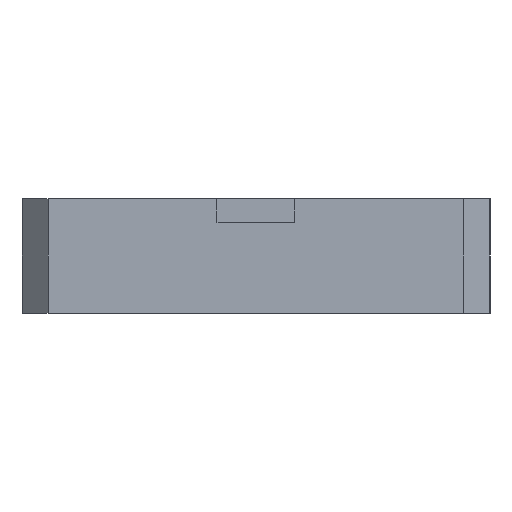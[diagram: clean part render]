
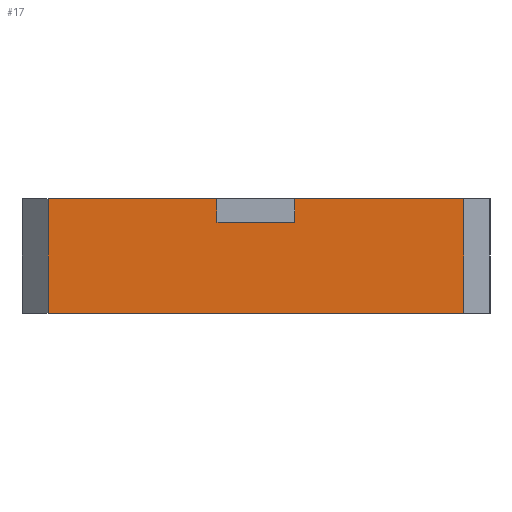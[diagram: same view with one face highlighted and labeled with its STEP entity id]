
A CAD part, left-side view. The second image highlights one B-rep face of the part: STEP entity #17.
In plain terms, the highlighted planar face has unit normal (-1, 0, 0).
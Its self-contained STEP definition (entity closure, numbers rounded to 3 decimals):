
#17 = ADVANCED_FACE('',(#18),#32,.F.);
#18 = FACE_BOUND('',#19,.F.);
#19 = EDGE_LOOP('',(#20,#55,#83,#111,#139,#162,#188,#214));
#20 = ORIENTED_EDGE('',*,*,#21,.F.);
#21 = EDGE_CURVE('',#22,#24,#26,.T.);
#22 = VERTEX_POINT('',#23);
#23 = CARTESIAN_POINT('',(-24.975,-8.,4.4));
#24 = VERTEX_POINT('',#25);
#25 = CARTESIAN_POINT('',(-24.975,-1.5,4.4));
#26 = SURFACE_CURVE('',#27,(#31,#43),.PCURVE_S1.);
#27 = LINE('',#28,#29);
#28 = CARTESIAN_POINT('',(-24.975,-9.,4.4));
#29 = VECTOR('',#30,1.);
#30 = DIRECTION('',(-0.,1.,0.));
#31 = PCURVE('',#32,#37);
#32 = PLANE('',#33);
#33 = AXIS2_PLACEMENT_3D('',#34,#35,#36);
#34 = CARTESIAN_POINT('',(-24.975,-9.,0.));
#35 = DIRECTION('',(1.,0.,-0.));
#36 = DIRECTION('',(0.,0.,1.));
#37 = DEFINITIONAL_REPRESENTATION('',(#38),#42);
#38 = LINE('',#39,#40);
#39 = CARTESIAN_POINT('',(4.4,0.));
#40 = VECTOR('',#41,1.);
#41 = DIRECTION('',(0.,-1.));
#42 = ( GEOMETRIC_REPRESENTATION_CONTEXT(2) 
PARAMETRIC_REPRESENTATION_CONTEXT() REPRESENTATION_CONTEXT('2D SPACE',''
  ) );
#43 = PCURVE('',#44,#49);
#44 = PLANE('',#45);
#45 = AXIS2_PLACEMENT_3D('',#46,#47,#48);
#46 = CARTESIAN_POINT('',(-24.975,-9.,4.4));
#47 = DIRECTION('',(0.,0.,1.));
#48 = DIRECTION('',(1.,0.,-0.));
#49 = DEFINITIONAL_REPRESENTATION('',(#50),#54);
#50 = LINE('',#51,#52);
#51 = CARTESIAN_POINT('',(0.,0.));
#52 = VECTOR('',#53,1.);
#53 = DIRECTION('',(0.,1.));
#54 = ( GEOMETRIC_REPRESENTATION_CONTEXT(2) 
PARAMETRIC_REPRESENTATION_CONTEXT() REPRESENTATION_CONTEXT('2D SPACE',''
  ) );
#55 = ORIENTED_EDGE('',*,*,#56,.F.);
#56 = EDGE_CURVE('',#57,#22,#59,.T.);
#57 = VERTEX_POINT('',#58);
#58 = CARTESIAN_POINT('',(-24.975,-8.,0.));
#59 = SURFACE_CURVE('',#60,(#64,#71),.PCURVE_S1.);
#60 = LINE('',#61,#62);
#61 = CARTESIAN_POINT('',(-24.975,-8.,0.));
#62 = VECTOR('',#63,1.);
#63 = DIRECTION('',(0.,0.,1.));
#64 = PCURVE('',#32,#65);
#65 = DEFINITIONAL_REPRESENTATION('',(#66),#70);
#66 = LINE('',#67,#68);
#67 = CARTESIAN_POINT('',(0.,-1.));
#68 = VECTOR('',#69,1.);
#69 = DIRECTION('',(1.,0.));
#70 = ( GEOMETRIC_REPRESENTATION_CONTEXT(2) 
PARAMETRIC_REPRESENTATION_CONTEXT() REPRESENTATION_CONTEXT('2D SPACE',''
  ) );
#71 = PCURVE('',#72,#77);
#72 = PLANE('',#73);
#73 = AXIS2_PLACEMENT_3D('',#74,#75,#76);
#74 = CARTESIAN_POINT('',(-24.475,-8.5,0.));
#75 = DIRECTION('',(-0.707,-0.707,0.));
#76 = DIRECTION('',(-0.,-0.,-1.));
#77 = DEFINITIONAL_REPRESENTATION('',(#78),#82);
#78 = LINE('',#79,#80);
#79 = CARTESIAN_POINT('',(-0.,-0.707));
#80 = VECTOR('',#81,1.);
#81 = DIRECTION('',(-1.,0.));
#82 = ( GEOMETRIC_REPRESENTATION_CONTEXT(2) 
PARAMETRIC_REPRESENTATION_CONTEXT() REPRESENTATION_CONTEXT('2D SPACE',''
  ) );
#83 = ORIENTED_EDGE('',*,*,#84,.T.);
#84 = EDGE_CURVE('',#57,#85,#87,.T.);
#85 = VERTEX_POINT('',#86);
#86 = CARTESIAN_POINT('',(-24.975,8.,0.));
#87 = SURFACE_CURVE('',#88,(#92,#99),.PCURVE_S1.);
#88 = LINE('',#89,#90);
#89 = CARTESIAN_POINT('',(-24.975,-9.,0.));
#90 = VECTOR('',#91,1.);
#91 = DIRECTION('',(-0.,1.,0.));
#92 = PCURVE('',#32,#93);
#93 = DEFINITIONAL_REPRESENTATION('',(#94),#98);
#94 = LINE('',#95,#96);
#95 = CARTESIAN_POINT('',(0.,0.));
#96 = VECTOR('',#97,1.);
#97 = DIRECTION('',(0.,-1.));
#98 = ( GEOMETRIC_REPRESENTATION_CONTEXT(2) 
PARAMETRIC_REPRESENTATION_CONTEXT() REPRESENTATION_CONTEXT('2D SPACE',''
  ) );
#99 = PCURVE('',#100,#105);
#100 = PLANE('',#101);
#101 = AXIS2_PLACEMENT_3D('',#102,#103,#104);
#102 = CARTESIAN_POINT('',(-24.975,-9.,0.));
#103 = DIRECTION('',(0.,0.,1.));
#104 = DIRECTION('',(1.,0.,-0.));
#105 = DEFINITIONAL_REPRESENTATION('',(#106),#110);
#106 = LINE('',#107,#108);
#107 = CARTESIAN_POINT('',(0.,0.));
#108 = VECTOR('',#109,1.);
#109 = DIRECTION('',(0.,1.));
#110 = ( GEOMETRIC_REPRESENTATION_CONTEXT(2) 
PARAMETRIC_REPRESENTATION_CONTEXT() REPRESENTATION_CONTEXT('2D SPACE',''
  ) );
#111 = ORIENTED_EDGE('',*,*,#112,.T.);
#112 = EDGE_CURVE('',#85,#113,#115,.T.);
#113 = VERTEX_POINT('',#114);
#114 = CARTESIAN_POINT('',(-24.975,8.,4.4));
#115 = SURFACE_CURVE('',#116,(#120,#127),.PCURVE_S1.);
#116 = LINE('',#117,#118);
#117 = CARTESIAN_POINT('',(-24.975,8.,0.));
#118 = VECTOR('',#119,1.);
#119 = DIRECTION('',(0.,0.,1.));
#120 = PCURVE('',#32,#121);
#121 = DEFINITIONAL_REPRESENTATION('',(#122),#126);
#122 = LINE('',#123,#124);
#123 = CARTESIAN_POINT('',(0.,-17.));
#124 = VECTOR('',#125,1.);
#125 = DIRECTION('',(1.,0.));
#126 = ( GEOMETRIC_REPRESENTATION_CONTEXT(2) 
PARAMETRIC_REPRESENTATION_CONTEXT() REPRESENTATION_CONTEXT('2D SPACE',''
  ) );
#127 = PCURVE('',#128,#133);
#128 = PLANE('',#129);
#129 = AXIS2_PLACEMENT_3D('',#130,#131,#132);
#130 = CARTESIAN_POINT('',(-24.475,8.5,0.));
#131 = DIRECTION('',(0.707,-0.707,0.));
#132 = DIRECTION('',(-0.,-0.,-1.));
#133 = DEFINITIONAL_REPRESENTATION('',(#134),#138);
#134 = LINE('',#135,#136);
#135 = CARTESIAN_POINT('',(-0.,-0.707));
#136 = VECTOR('',#137,1.);
#137 = DIRECTION('',(-1.,0.));
#138 = ( GEOMETRIC_REPRESENTATION_CONTEXT(2) 
PARAMETRIC_REPRESENTATION_CONTEXT() REPRESENTATION_CONTEXT('2D SPACE',''
  ) );
#139 = ORIENTED_EDGE('',*,*,#140,.F.);
#140 = EDGE_CURVE('',#141,#113,#143,.T.);
#141 = VERTEX_POINT('',#142);
#142 = CARTESIAN_POINT('',(-24.975,1.5,4.4));
#143 = SURFACE_CURVE('',#144,(#148,#155),.PCURVE_S1.);
#144 = LINE('',#145,#146);
#145 = CARTESIAN_POINT('',(-24.975,-9.,4.4));
#146 = VECTOR('',#147,1.);
#147 = DIRECTION('',(-0.,1.,0.));
#148 = PCURVE('',#32,#149);
#149 = DEFINITIONAL_REPRESENTATION('',(#150),#154);
#150 = LINE('',#151,#152);
#151 = CARTESIAN_POINT('',(4.4,0.));
#152 = VECTOR('',#153,1.);
#153 = DIRECTION('',(0.,-1.));
#154 = ( GEOMETRIC_REPRESENTATION_CONTEXT(2) 
PARAMETRIC_REPRESENTATION_CONTEXT() REPRESENTATION_CONTEXT('2D SPACE',''
  ) );
#155 = PCURVE('',#44,#156);
#156 = DEFINITIONAL_REPRESENTATION('',(#157),#161);
#157 = LINE('',#158,#159);
#158 = CARTESIAN_POINT('',(0.,0.));
#159 = VECTOR('',#160,1.);
#160 = DIRECTION('',(0.,1.));
#161 = ( GEOMETRIC_REPRESENTATION_CONTEXT(2) 
PARAMETRIC_REPRESENTATION_CONTEXT() REPRESENTATION_CONTEXT('2D SPACE',''
  ) );
#162 = ORIENTED_EDGE('',*,*,#163,.F.);
#163 = EDGE_CURVE('',#164,#141,#166,.T.);
#164 = VERTEX_POINT('',#165);
#165 = CARTESIAN_POINT('',(-24.975,1.5,3.5));
#166 = SURFACE_CURVE('',#167,(#171,#177),.PCURVE_S1.);
#167 = LINE('',#168,#169);
#168 = CARTESIAN_POINT('',(-24.975,1.5,1.75));
#169 = VECTOR('',#170,1.);
#170 = DIRECTION('',(0.,0.,1.));
#171 = PCURVE('',#32,#172);
#172 = DEFINITIONAL_REPRESENTATION('',(#173),#176);
#173 = B_SPLINE_CURVE_WITH_KNOTS('',1,(#174,#175),.UNSPECIFIED.,.F.,.F.,
  (2,2),(1.75,2.65),.PIECEWISE_BEZIER_KNOTS.);
#174 = CARTESIAN_POINT('',(3.5,-10.5));
#175 = CARTESIAN_POINT('',(4.4,-10.5));
#176 = ( GEOMETRIC_REPRESENTATION_CONTEXT(2) 
PARAMETRIC_REPRESENTATION_CONTEXT() REPRESENTATION_CONTEXT('2D SPACE',''
  ) );
#177 = PCURVE('',#178,#183);
#178 = PLANE('',#179);
#179 = AXIS2_PLACEMENT_3D('',#180,#181,#182);
#180 = CARTESIAN_POINT('',(-25.175,1.5,3.5));
#181 = DIRECTION('',(-0.,1.,0.));
#182 = DIRECTION('',(0.,0.,1.));
#183 = DEFINITIONAL_REPRESENTATION('',(#184),#187);
#184 = B_SPLINE_CURVE_WITH_KNOTS('',1,(#185,#186),.UNSPECIFIED.,.F.,.F.,
  (2,2),(1.75,2.65),.PIECEWISE_BEZIER_KNOTS.);
#185 = CARTESIAN_POINT('',(0.,0.2));
#186 = CARTESIAN_POINT('',(0.9,0.2));
#187 = ( GEOMETRIC_REPRESENTATION_CONTEXT(2) 
PARAMETRIC_REPRESENTATION_CONTEXT() REPRESENTATION_CONTEXT('2D SPACE',''
  ) );
#188 = ORIENTED_EDGE('',*,*,#189,.T.);
#189 = EDGE_CURVE('',#164,#190,#192,.T.);
#190 = VERTEX_POINT('',#191);
#191 = CARTESIAN_POINT('',(-24.975,-1.5,3.5));
#192 = SURFACE_CURVE('',#193,(#197,#203),.PCURVE_S1.);
#193 = LINE('',#194,#195);
#194 = CARTESIAN_POINT('',(-24.975,-5.25,3.5));
#195 = VECTOR('',#196,1.);
#196 = DIRECTION('',(0.,-1.,0.));
#197 = PCURVE('',#32,#198);
#198 = DEFINITIONAL_REPRESENTATION('',(#199),#202);
#199 = B_SPLINE_CURVE_WITH_KNOTS('',1,(#200,#201),.UNSPECIFIED.,.F.,.F.,
  (2,2),(-6.75,-3.75),.PIECEWISE_BEZIER_KNOTS.);
#200 = CARTESIAN_POINT('',(3.5,-10.5));
#201 = CARTESIAN_POINT('',(3.5,-7.5));
#202 = ( GEOMETRIC_REPRESENTATION_CONTEXT(2) 
PARAMETRIC_REPRESENTATION_CONTEXT() REPRESENTATION_CONTEXT('2D SPACE',''
  ) );
#203 = PCURVE('',#204,#209);
#204 = PLANE('',#205);
#205 = AXIS2_PLACEMENT_3D('',#206,#207,#208);
#206 = CARTESIAN_POINT('',(-25.175,-1.5,3.5));
#207 = DIRECTION('',(0.,0.,1.));
#208 = DIRECTION('',(1.,0.,-0.));
#209 = DEFINITIONAL_REPRESENTATION('',(#210),#213);
#210 = B_SPLINE_CURVE_WITH_KNOTS('',1,(#211,#212),.UNSPECIFIED.,.F.,.F.,
  (2,2),(-6.75,-3.75),.PIECEWISE_BEZIER_KNOTS.);
#211 = CARTESIAN_POINT('',(0.2,3.));
#212 = CARTESIAN_POINT('',(0.2,0.));
#213 = ( GEOMETRIC_REPRESENTATION_CONTEXT(2) 
PARAMETRIC_REPRESENTATION_CONTEXT() REPRESENTATION_CONTEXT('2D SPACE',''
  ) );
#214 = ORIENTED_EDGE('',*,*,#215,.T.);
#215 = EDGE_CURVE('',#190,#24,#216,.T.);
#216 = SURFACE_CURVE('',#217,(#221,#227),.PCURVE_S1.);
#217 = LINE('',#218,#219);
#218 = CARTESIAN_POINT('',(-24.975,-1.5,1.75));
#219 = VECTOR('',#220,1.);
#220 = DIRECTION('',(0.,0.,1.));
#221 = PCURVE('',#32,#222);
#222 = DEFINITIONAL_REPRESENTATION('',(#223),#226);
#223 = B_SPLINE_CURVE_WITH_KNOTS('',1,(#224,#225),.UNSPECIFIED.,.F.,.F.,
  (2,2),(1.75,2.65),.PIECEWISE_BEZIER_KNOTS.);
#224 = CARTESIAN_POINT('',(3.5,-7.5));
#225 = CARTESIAN_POINT('',(4.4,-7.5));
#226 = ( GEOMETRIC_REPRESENTATION_CONTEXT(2) 
PARAMETRIC_REPRESENTATION_CONTEXT() REPRESENTATION_CONTEXT('2D SPACE',''
  ) );
#227 = PCURVE('',#228,#233);
#228 = PLANE('',#229);
#229 = AXIS2_PLACEMENT_3D('',#230,#231,#232);
#230 = CARTESIAN_POINT('',(-25.175,-1.5,3.5));
#231 = DIRECTION('',(-0.,1.,0.));
#232 = DIRECTION('',(0.,0.,1.));
#233 = DEFINITIONAL_REPRESENTATION('',(#234),#237);
#234 = B_SPLINE_CURVE_WITH_KNOTS('',1,(#235,#236),.UNSPECIFIED.,.F.,.F.,
  (2,2),(1.75,2.65),.PIECEWISE_BEZIER_KNOTS.);
#235 = CARTESIAN_POINT('',(0.,0.2));
#236 = CARTESIAN_POINT('',(0.9,0.2));
#237 = ( GEOMETRIC_REPRESENTATION_CONTEXT(2) 
PARAMETRIC_REPRESENTATION_CONTEXT() REPRESENTATION_CONTEXT('2D SPACE',''
  ) );
